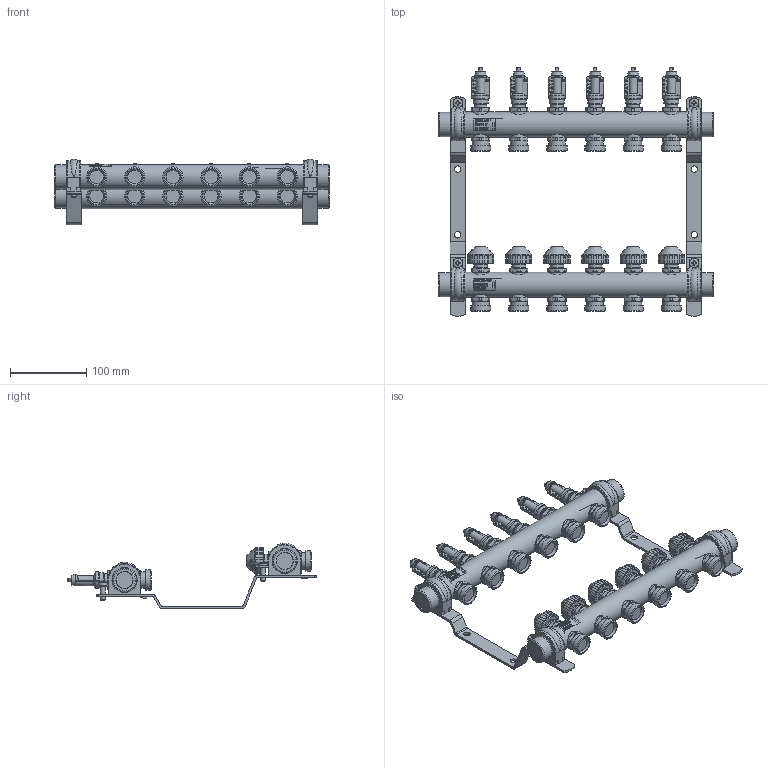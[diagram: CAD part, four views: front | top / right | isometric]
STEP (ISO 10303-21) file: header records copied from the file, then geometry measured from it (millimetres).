
FILE_DESCRIPTION((''),'2;1');
FILE_NAME('C:\Users\duckj\Desktop\10026188.stp','2017-04-19T10:20:36',('duckj'),(''),'Autodesk Inventor 2013','Autodesk Inventor 2013','');
FILE_SCHEMA(('CONFIG_CONTROL_DESIGN'));
Length unit declared in the file: millimetre
Products named in the file (4): 19042017_002; 26102016_005; 19042017_003; 19042017_004
Assembly tree (4 placements, depth 2):
  19042017_002
    26102016_005  x2
    19042017_003
    19042017_004
Bounding box: 360 x 325.94 x 85.69 mm (x, y, z)
Volume: 999820.2 mm3; surface area: 203722.4 mm2
Topology: 4 solids, 4 shells, 3668 faces, 9811 edges, 6359 vertices
Faces by surface type: plane 2028, cylinder 635, bspline 514, cone 413, torus 74, sphere 4
Full cylindrical faces by diameter (mm): 3 x6, 6 x8, 8.5 x4, 12 x4, 15 x6, 15.5 x6, 16.5 x6, 18 x6, 19.5 x6, 21.8 x24, 22 x40, 26.441 x12, 31.8 x4, 33 x4, 33.7 x6
Entity records: 165491 total; most frequent: CARTESIAN_POINT 79872, ORIENTED_EDGE 18168, DIRECTION 15041, EDGE_CURVE 9084, VERTEX_POINT 6035, AXIS2_PLACEMENT_3D 5102, VECTOR 4837, LINE 4837
